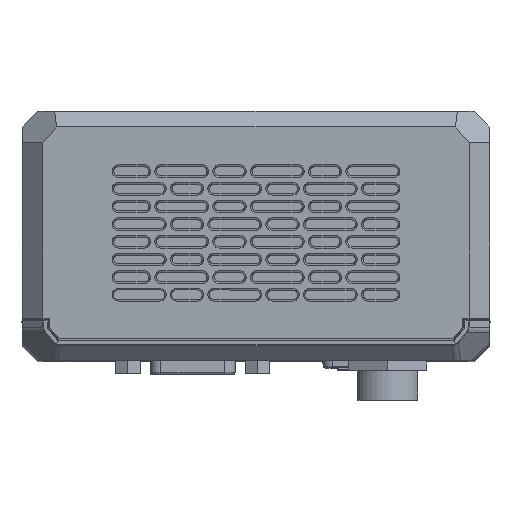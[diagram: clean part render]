
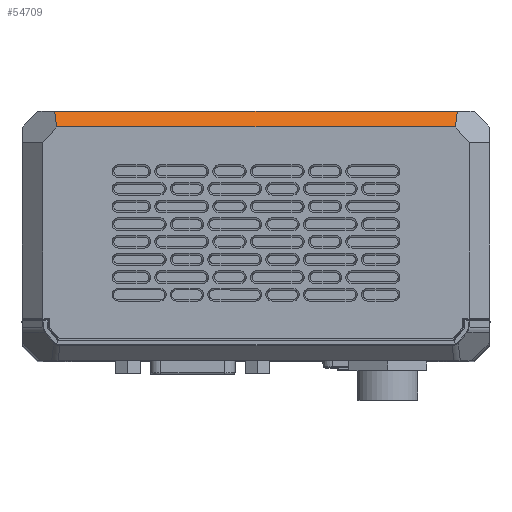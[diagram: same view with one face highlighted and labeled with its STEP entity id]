
A CAD part, top view. The second image highlights one B-rep face of the part: STEP entity #54709.
In plain terms, the highlighted planar face has unit normal (0, 0.707, 0.707).
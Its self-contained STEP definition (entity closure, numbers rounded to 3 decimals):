
#8670=DIRECTION('',(0.085,0.705,-0.705));
#8671=VECTOR('',#8670,4.258);
#8672=CARTESIAN_POINT('',(-380.489,29.675,139.501));
#8673=LINE('',#8672,#8671);
#8686=DIRECTION('',(-0.085,0.705,-0.705));
#8687=VECTOR('',#8686,4.258);
#8688=CARTESIAN_POINT('',(-457.276,29.675,139.501));
#8689=LINE('',#8688,#8687);
#8690=DIRECTION('',(-1.,0.,0.));
#8691=VECTOR('',#8690,76.787);
#8692=CARTESIAN_POINT('',(-380.489,29.675,139.501));
#8693=LINE('',#8692,#8691);
#8734=DIRECTION('',(-1.,0.,0.));
#8735=VECTOR('',#8734,77.515);
#8736=CARTESIAN_POINT('',(-380.125,32.675,136.501));
#8737=LINE('',#8736,#8735);
#40317=CARTESIAN_POINT('',(-457.64,32.675,
136.501));
#40318=VERTEX_POINT('',#40317);
#40319=CARTESIAN_POINT('',(-457.276,29.675,
139.501));
#40320=VERTEX_POINT('',#40319);
#41119=CARTESIAN_POINT('',(-380.489,29.675,
139.501));
#41120=VERTEX_POINT('',#41119);
#41709=CARTESIAN_POINT('',(-380.125,32.675,
136.501));
#41710=VERTEX_POINT('',#41709);
#54697=CARTESIAN_POINT('',(-457.64,29.675,
139.501));
#54698=DIRECTION('',(0.,0.707,0.707));
#54699=DIRECTION('',(1.,0.,0.));
#54700=AXIS2_PLACEMENT_3D('',#54697,#54698,#54699);
#54701=PLANE('',#54700);
#54702=ORIENTED_EDGE('',*,*,#54416,.T.);
#54704=ORIENTED_EDGE('',*,*,#54703,.F.);
#54705=ORIENTED_EDGE('',*,*,#54686,.F.);
#54706=ORIENTED_EDGE('',*,*,#53706,.T.);
#54707=EDGE_LOOP('',(#54702,#54704,#54705,#54706));
#54708=FACE_OUTER_BOUND('',#54707,.F.);
#54709=ADVANCED_FACE('',(#54708),#54701,.T.);
#53706=EDGE_CURVE('',#41120,#40320,#8693,.T.);
#54416=EDGE_CURVE('',#40320,#40318,#8689,.T.);
#54686=EDGE_CURVE('',#41120,#41710,#8673,.T.);
#54703=EDGE_CURVE('',#41710,#40318,#8737,.T.);
